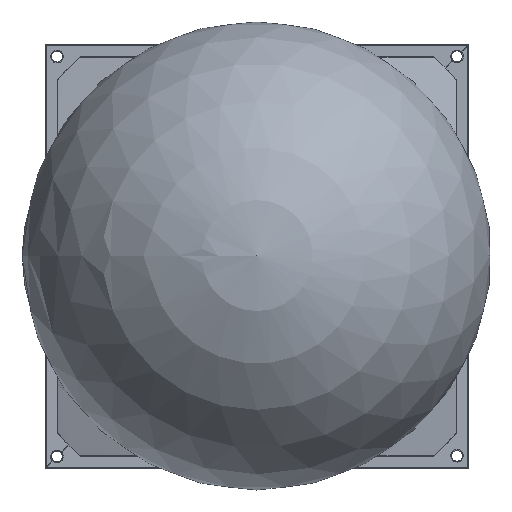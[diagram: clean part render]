
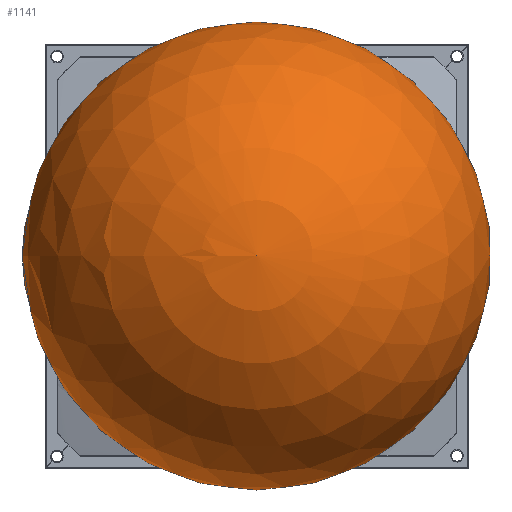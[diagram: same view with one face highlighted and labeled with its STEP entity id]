
A CAD part, top view. The second image highlights one B-rep face of the part: STEP entity #1141.
In plain terms, the highlighted spherical face has radius 150 mm.
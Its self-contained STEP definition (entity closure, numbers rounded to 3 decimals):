
#19=SPHERICAL_SURFACE('',#1278,150.);
#128=FACE_OUTER_BOUND('',#195,.T.);
#195=EDGE_LOOP('',(#1023,#1024,#1025,#1026));
#246=CIRCLE('',#1279,41.414);
#247=CIRCLE('',#1280,150.);
#248=CIRCLE('',#1281,41.414);
#533=VERTEX_POINT('',#1985);
#534=VERTEX_POINT('',#1986);
#535=VERTEX_POINT('',#1988);
#698=EDGE_CURVE('',#533,#534,#246,.T.);
#699=EDGE_CURVE('',#535,#533,#247,.T.);
#700=EDGE_CURVE('',#534,#533,#248,.T.);
#1023=ORIENTED_EDGE('',*,*,#698,.F.);
#1024=ORIENTED_EDGE('',*,*,#699,.F.);
#1025=ORIENTED_EDGE('',*,*,#699,.T.);
#1026=ORIENTED_EDGE('',*,*,#700,.F.);
#1141=ADVANCED_FACE('',(#128),#19,.T.);
#1278=AXIS2_PLACEMENT_3D('',#1984,#1596,#1597);
#1279=AXIS2_PLACEMENT_3D('',#1987,#1598,#1599);
#1280=AXIS2_PLACEMENT_3D('',#1989,#1600,#1601);
#1281=AXIS2_PLACEMENT_3D('',#1990,#1602,#1603);
#1596=DIRECTION('center_axis',(0.,0.,
1.));
#1597=DIRECTION('ref_axis',(1.,0.,0.));
#1598=DIRECTION('center_axis',(0.,0.,-1.));
#1599=DIRECTION('ref_axis',(1.,0.,0.));
#1600=DIRECTION('center_axis',(0.,-1.,0.));
#1601=DIRECTION('ref_axis',(-1.,0.,0.));
#1602=DIRECTION('center_axis',(0.,0.,-1.));
#1603=DIRECTION('ref_axis',(1.,0.,0.));
#1984=CARTESIAN_POINT('Origin',(0.,0.,144.17));
#1985=CARTESIAN_POINT('',(-41.414,0.,0.));
#1986=CARTESIAN_POINT('',(41.414,0.,0.));
#1987=CARTESIAN_POINT('Origin',(0.,0.,0.));
#1988=CARTESIAN_POINT('',(0.,0.,294.17));
#1989=CARTESIAN_POINT('Origin',(0.,0.,144.17));
#1990=CARTESIAN_POINT('Origin',(0.,0.,0.));
